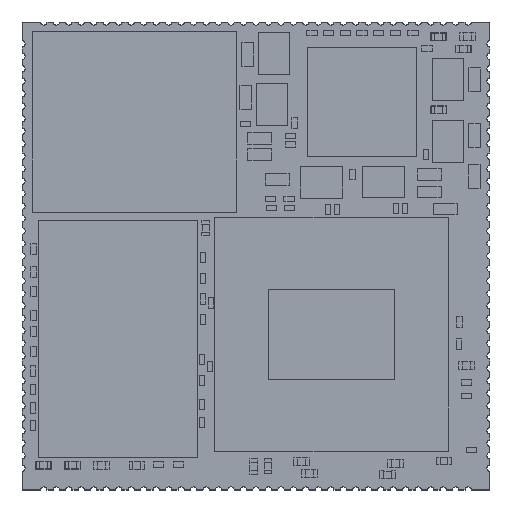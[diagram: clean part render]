
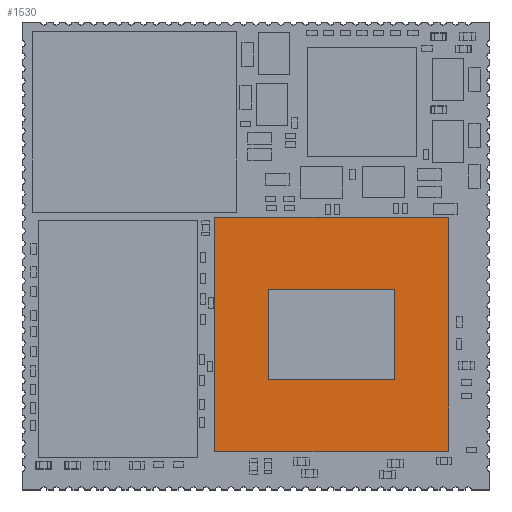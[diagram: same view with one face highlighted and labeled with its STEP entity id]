
A CAD part, top view. The second image highlights one B-rep face of the part: STEP entity #1530.
In plain terms, the highlighted planar face has unit normal (0, 0, 1).
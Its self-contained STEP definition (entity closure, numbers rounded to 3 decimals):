
#66 = DIRECTION ( 'NONE',  ( 0., 0., 1. ) ) ;
#368 = LINE ( 'NONE', #13906, #4715 ) ;
#421 = VERTEX_POINT ( 'NONE', #29599 ) ;
#653 = CARTESIAN_POINT ( 'NONE',  ( 0., -7.5, 1.03 ) ) ;
#1003 = VECTOR ( 'NONE', #15802, 1000. ) ;
#1530 = ADVANCED_FACE ( 'NONE', ( #7326 ), #12489, .T. ) ;
#3873 = VECTOR ( 'NONE', #16461, 1000. ) ;
#4715 = VECTOR ( 'NONE', #13505, 1000. ) ;
#6450 = EDGE_CURVE ( 'NONE', #13184, #12788, #25055, .T. ) ;
#7326 = FACE_OUTER_BOUND ( 'NONE', #10086, .T. ) ;
#10086 = EDGE_LOOP ( 'NONE', ( #38732, #29894, #11272, #34685 ) ) ;
#10302 = LINE ( 'NONE', #12969, #1003 ) ;
#11272 = ORIENTED_EDGE ( 'NONE', *, *, #16917, .T. ) ;
#11431 = CARTESIAN_POINT ( 'NONE',  ( 7.5, 0., 1.03 ) ) ;
#12489 = PLANE ( 'NONE',  #39778 ) ;
#12788 = VERTEX_POINT ( 'NONE', #36176 ) ;
#12969 = CARTESIAN_POINT ( 'NONE',  ( 0., 7.5, 1.03 ) ) ;
#13184 = VERTEX_POINT ( 'NONE', #21522 ) ;
#13505 = DIRECTION ( 'NONE',  ( 0., -1., 0. ) ) ;
#13906 = CARTESIAN_POINT ( 'NONE',  ( -7.5, 0., 1.03 ) ) ;
#15122 = EDGE_CURVE ( 'NONE', #22336, #13184, #19052, .T. ) ;
#15802 = DIRECTION ( 'NONE',  ( -1., 0., 0. ) ) ;
#16461 = DIRECTION ( 'NONE',  ( 1., 0., 0. ) ) ;
#16917 = EDGE_CURVE ( 'NONE', #421, #22336, #368, .T. ) ;
#17288 = VECTOR ( 'NONE', #20662, 1000. ) ;
#18767 = CARTESIAN_POINT ( 'NONE',  ( 0., 0., 1.03 ) ) ;
#19052 = LINE ( 'NONE', #653, #3873 ) ;
#19182 = CARTESIAN_POINT ( 'NONE',  ( -7.5, -7.5, 1.03 ) ) ;
#20662 = DIRECTION ( 'NONE',  ( 0., 1., 0. ) ) ;
#21522 = CARTESIAN_POINT ( 'NONE',  ( 7.5, -7.5, 1.03 ) ) ;
#21874 = DIRECTION ( 'NONE',  ( 1., 0., 0. ) ) ;
#22336 = VERTEX_POINT ( 'NONE', #19182 ) ;
#25055 = LINE ( 'NONE', #11431, #17288 ) ;
#29599 = CARTESIAN_POINT ( 'NONE',  ( -7.5, 7.5, 1.03 ) ) ;
#29894 = ORIENTED_EDGE ( 'NONE', *, *, #34917, .T. ) ;
#34685 = ORIENTED_EDGE ( 'NONE', *, *, #15122, .T. ) ;
#34917 = EDGE_CURVE ( 'NONE', #12788, #421, #10302, .T. ) ;
#36176 = CARTESIAN_POINT ( 'NONE',  ( 7.5, 7.5, 1.03 ) ) ;
#38732 = ORIENTED_EDGE ( 'NONE', *, *, #6450, .T. ) ;
#39778 = AXIS2_PLACEMENT_3D ( 'NONE', #18767, #66, #21874 ) ;
